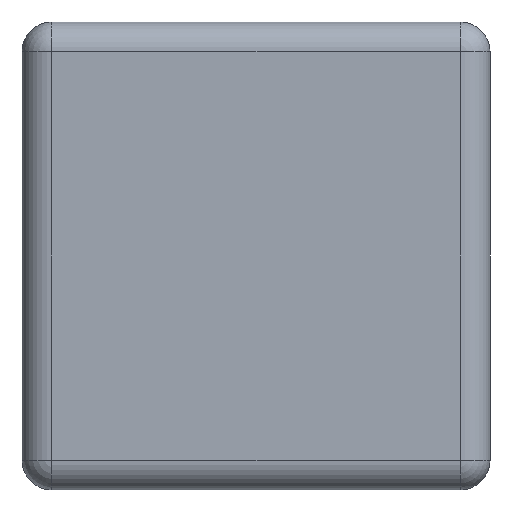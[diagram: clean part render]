
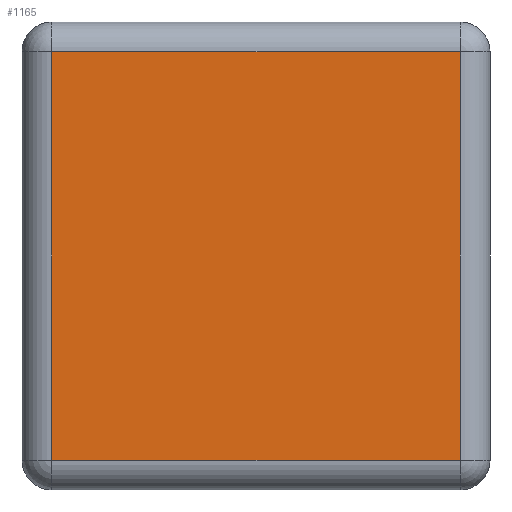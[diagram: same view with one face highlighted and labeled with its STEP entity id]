
A CAD part, left-side view. The second image highlights one B-rep face of the part: STEP entity #1165.
In plain terms, the highlighted planar face has unit normal (-1, 0, 0).
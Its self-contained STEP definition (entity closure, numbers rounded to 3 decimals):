
#186 = CYLINDRICAL_SURFACE('',#187,0.08);
#187 = AXIS2_PLACEMENT_3D('',#188,#189,#190);
#188 = CARTESIAN_POINT('',(-0.92,0.545,0.));
#189 = DIRECTION('',(0.,0.,1.));
#190 = DIRECTION('',(-0.,1.,0.));
#582 = VERTEX_POINT('',#583);
#583 = CARTESIAN_POINT('',(-1.,0.545,0.08));
#603 = EDGE_CURVE('',#582,#604,#606,.T.);
#604 = VERTEX_POINT('',#605);
#605 = CARTESIAN_POINT('',(-1.,0.545,1.17));
#606 = SURFACE_CURVE('',#607,(#611,#618),.PCURVE_S1.);
#607 = LINE('',#608,#609);
#608 = CARTESIAN_POINT('',(-1.,0.545,0.));
#609 = VECTOR('',#610,1.);
#610 = DIRECTION('',(0.,0.,1.));
#611 = PCURVE('',#186,#612);
#612 = DEFINITIONAL_REPRESENTATION('',(#613),#617);
#613 = LINE('',#614,#615);
#614 = CARTESIAN_POINT('',(1.571,0.));
#615 = VECTOR('',#616,1.);
#616 = DIRECTION('',(0.,1.));
#617 = ( GEOMETRIC_REPRESENTATION_CONTEXT(2) 
PARAMETRIC_REPRESENTATION_CONTEXT() REPRESENTATION_CONTEXT('2D SPACE',''
  ) );
#618 = PCURVE('',#619,#624);
#619 = PLANE('',#620);
#620 = AXIS2_PLACEMENT_3D('',#621,#622,#623);
#621 = CARTESIAN_POINT('',(-1.,-0.625,0.));
#622 = DIRECTION('',(-1.,0.,0.));
#623 = DIRECTION('',(0.,1.,0.));
#624 = DEFINITIONAL_REPRESENTATION('',(#625),#629);
#625 = LINE('',#626,#627);
#626 = CARTESIAN_POINT('',(1.17,0.));
#627 = VECTOR('',#628,1.);
#628 = DIRECTION('',(0.,-1.));
#629 = ( GEOMETRIC_REPRESENTATION_CONTEXT(2) 
PARAMETRIC_REPRESENTATION_CONTEXT() REPRESENTATION_CONTEXT('2D SPACE',''
  ) );
#1016 = CYLINDRICAL_SURFACE('',#1017,0.08);
#1017 = AXIS2_PLACEMENT_3D('',#1018,#1019,#1020);
#1018 = CARTESIAN_POINT('',(-0.92,-0.625,0.08));
#1019 = DIRECTION('',(0.,1.,0.));
#1020 = DIRECTION('',(-1.,0.,0.));
#1100 = CYLINDRICAL_SURFACE('',#1101,0.08);
#1101 = AXIS2_PLACEMENT_3D('',#1102,#1103,#1104);
#1102 = CARTESIAN_POINT('',(-0.92,-0.625,1.17));
#1103 = DIRECTION('',(0.,1.,0.));
#1104 = DIRECTION('',(-1.,0.,0.));
#1165 = ADVANCED_FACE('',(#1166),#619,.T.);
#1166 = FACE_BOUND('',#1167,.T.);
#1167 = EDGE_LOOP('',(#1168,#1198,#1219,#1220));
#1168 = ORIENTED_EDGE('',*,*,#1169,.T.);
#1169 = EDGE_CURVE('',#1170,#1172,#1174,.T.);
#1170 = VERTEX_POINT('',#1171);
#1171 = CARTESIAN_POINT('',(-1.,-0.545,0.08));
#1172 = VERTEX_POINT('',#1173);
#1173 = CARTESIAN_POINT('',(-1.,-0.545,1.17));
#1174 = SURFACE_CURVE('',#1175,(#1179,#1186),.PCURVE_S1.);
#1175 = LINE('',#1176,#1177);
#1176 = CARTESIAN_POINT('',(-1.,-0.545,0.));
#1177 = VECTOR('',#1178,1.);
#1178 = DIRECTION('',(0.,0.,1.));
#1179 = PCURVE('',#619,#1180);
#1180 = DEFINITIONAL_REPRESENTATION('',(#1181),#1185);
#1181 = LINE('',#1182,#1183);
#1182 = CARTESIAN_POINT('',(0.08,0.));
#1183 = VECTOR('',#1184,1.);
#1184 = DIRECTION('',(0.,-1.));
#1185 = ( GEOMETRIC_REPRESENTATION_CONTEXT(2) 
PARAMETRIC_REPRESENTATION_CONTEXT() REPRESENTATION_CONTEXT('2D SPACE',''
  ) );
#1186 = PCURVE('',#1187,#1192);
#1187 = CYLINDRICAL_SURFACE('',#1188,0.08);
#1188 = AXIS2_PLACEMENT_3D('',#1189,#1190,#1191);
#1189 = CARTESIAN_POINT('',(-0.92,-0.545,0.));
#1190 = DIRECTION('',(0.,0.,1.));
#1191 = DIRECTION('',(-1.,0.,0.));
#1192 = DEFINITIONAL_REPRESENTATION('',(#1193),#1197);
#1193 = LINE('',#1194,#1195);
#1194 = CARTESIAN_POINT('',(0.,0.));
#1195 = VECTOR('',#1196,1.);
#1196 = DIRECTION('',(0.,1.));
#1197 = ( GEOMETRIC_REPRESENTATION_CONTEXT(2) 
PARAMETRIC_REPRESENTATION_CONTEXT() REPRESENTATION_CONTEXT('2D SPACE',''
  ) );
#1198 = ORIENTED_EDGE('',*,*,#1199,.T.);
#1199 = EDGE_CURVE('',#1172,#604,#1200,.T.);
#1200 = SURFACE_CURVE('',#1201,(#1205,#1212),.PCURVE_S1.);
#1201 = LINE('',#1202,#1203);
#1202 = CARTESIAN_POINT('',(-1.,-0.625,1.17));
#1203 = VECTOR('',#1204,1.);
#1204 = DIRECTION('',(0.,1.,0.));
#1205 = PCURVE('',#619,#1206);
#1206 = DEFINITIONAL_REPRESENTATION('',(#1207),#1211);
#1207 = LINE('',#1208,#1209);
#1208 = CARTESIAN_POINT('',(0.,-1.17));
#1209 = VECTOR('',#1210,1.);
#1210 = DIRECTION('',(1.,0.));
#1211 = ( GEOMETRIC_REPRESENTATION_CONTEXT(2) 
PARAMETRIC_REPRESENTATION_CONTEXT() REPRESENTATION_CONTEXT('2D SPACE',''
  ) );
#1212 = PCURVE('',#1100,#1213);
#1213 = DEFINITIONAL_REPRESENTATION('',(#1214),#1218);
#1214 = LINE('',#1215,#1216);
#1215 = CARTESIAN_POINT('',(0.,0.));
#1216 = VECTOR('',#1217,1.);
#1217 = DIRECTION('',(0.,1.));
#1218 = ( GEOMETRIC_REPRESENTATION_CONTEXT(2) 
PARAMETRIC_REPRESENTATION_CONTEXT() REPRESENTATION_CONTEXT('2D SPACE',''
  ) );
#1219 = ORIENTED_EDGE('',*,*,#603,.F.);
#1220 = ORIENTED_EDGE('',*,*,#1221,.F.);
#1221 = EDGE_CURVE('',#1170,#582,#1222,.T.);
#1222 = SURFACE_CURVE('',#1223,(#1227,#1234),.PCURVE_S1.);
#1223 = LINE('',#1224,#1225);
#1224 = CARTESIAN_POINT('',(-1.,-0.625,0.08));
#1225 = VECTOR('',#1226,1.);
#1226 = DIRECTION('',(0.,1.,0.));
#1227 = PCURVE('',#619,#1228);
#1228 = DEFINITIONAL_REPRESENTATION('',(#1229),#1233);
#1229 = LINE('',#1230,#1231);
#1230 = CARTESIAN_POINT('',(0.,-0.08));
#1231 = VECTOR('',#1232,1.);
#1232 = DIRECTION('',(1.,0.));
#1233 = ( GEOMETRIC_REPRESENTATION_CONTEXT(2) 
PARAMETRIC_REPRESENTATION_CONTEXT() REPRESENTATION_CONTEXT('2D SPACE',''
  ) );
#1234 = PCURVE('',#1016,#1235);
#1235 = DEFINITIONAL_REPRESENTATION('',(#1236),#1240);
#1236 = LINE('',#1237,#1238);
#1237 = CARTESIAN_POINT('',(-0.,0.));
#1238 = VECTOR('',#1239,1.);
#1239 = DIRECTION('',(-0.,1.));
#1240 = ( GEOMETRIC_REPRESENTATION_CONTEXT(2) 
PARAMETRIC_REPRESENTATION_CONTEXT() REPRESENTATION_CONTEXT('2D SPACE',''
  ) );
